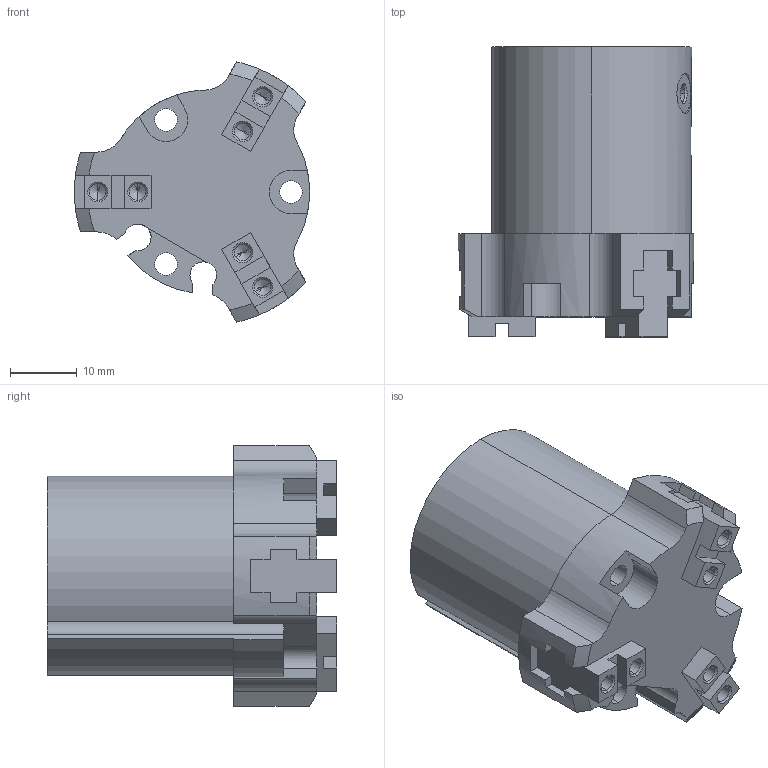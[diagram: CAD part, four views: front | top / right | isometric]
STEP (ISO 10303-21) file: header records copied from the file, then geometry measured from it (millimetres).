
FILE_DESCRIPTION (( 'STEP AP214' ), '1' );
FILE_NAME ('SHSL3-16D(8_5_0).STEP', '2025-02-06T05:15:42', ( '' ), ( '' ), 'SwSTEP 2.0', 'SolidWorks 2023', '' );
FILE_SCHEMA (( 'AUTOMOTIVE_DESIGN' ));
Length unit declared in the file: millimetre
Products named in the file (3): SHSL3-1601; SHSL3-1602; SHSL3-16D(8_5_0)
Assembly tree (4 placements, depth 2):
  SHSL3-16D(8_5_0)
    SHSL3-1601  x3
    SHSL3-1602
Bounding box: 35.3 x 43.5 x 39.05 mm (x, y, z)
Volume: 27844.3 mm3; surface area: 10942.5 mm2
Topology: 4 solids, 4 shells, 238 faces, 631 edges, 395 vertices
Faces by surface type: plane 131, cylinder 57, cone 50
Entity records: 5555 total; most frequent: CARTESIAN_POINT 1073, DIRECTION 937, ORIENTED_EDGE 906, EDGE_CURVE 453, AXIS2_PLACEMENT_3D 319, LINE 299, VECTOR 299, VERTEX_POINT 295
